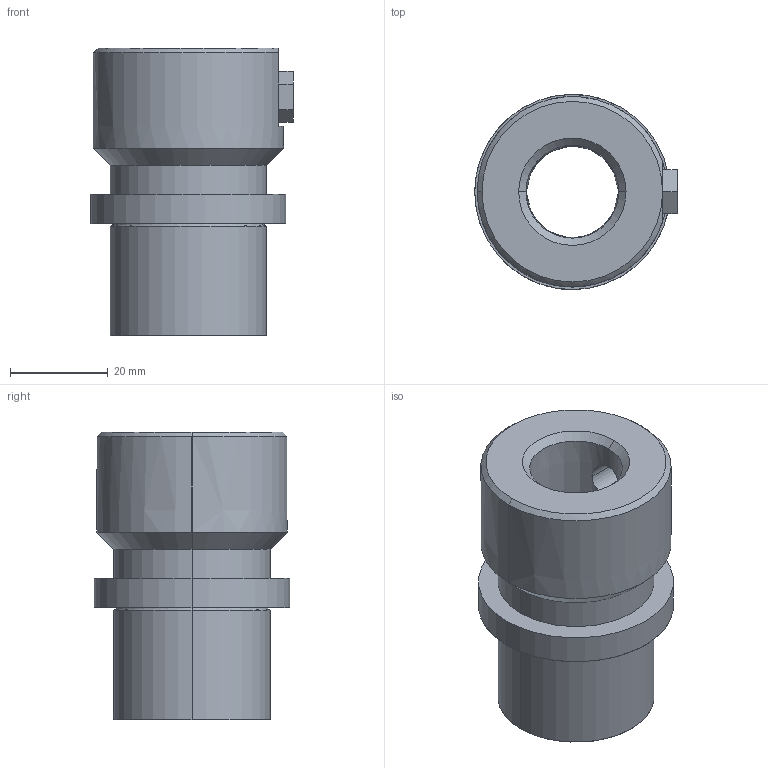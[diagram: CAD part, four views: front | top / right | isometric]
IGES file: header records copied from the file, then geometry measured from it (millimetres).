
Start section: START RECORD GO HERE.
Global section: file name: 742-19.igs; native system: DASSAULT SYSTEMES CATIA V5 R20 - www.3ds.com; preprocessor: CATIA Version 5 Release 20 ; author: Utente; organization: NB04-ASUS; date: 20210123.170326; units: millimetre
Bounding box: 41.5 x 40 x 59 mm (x, y, z)
Surface area: 12821.5 mm2 (no closed solid volume)
Topology: 0 solids, 0 shells, 38 faces, 182 edges, 182 vertices
Faces by surface type: revolution 24, plane 14
